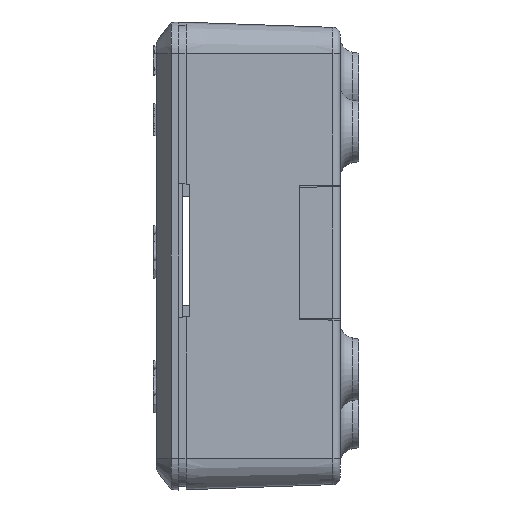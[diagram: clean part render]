
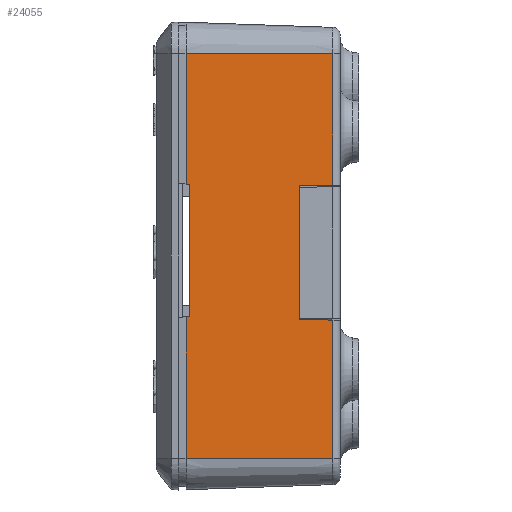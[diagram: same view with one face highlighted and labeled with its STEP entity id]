
A CAD part, left-side view. The second image highlights one B-rep face of the part: STEP entity #24055.
In plain terms, the highlighted planar face has unit normal (-0.999, -0.035, 0).
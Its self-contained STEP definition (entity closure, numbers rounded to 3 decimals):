
#236 = ORIENTED_EDGE ( 'PI314', *, *, #5801, .T. ) ;
#664 = EDGE_CURVE ( 'PI314', #14801, #6097, #19391, .T. ) ;
#811 = CARTESIAN_POINT ( 'PI314',  ( -47.192, 1., -9.3 ) ) ;
#823 = DIRECTION ( 'PI314',  ( 0.035, -0.999, 0. ) ) ;
#1284 = CARTESIAN_POINT ( 'PI314',  ( -47.725, 16.25, 26.5 ) ) ;
#1428 = CARTESIAN_POINT ( 'PI314',  ( -47.725, 16.25, -8.948 ) ) ;
#1599 = VERTEX_POINT ( 'PI314', #40087 ) ;
#1869 = EDGE_CURVE ( 'PI314', #28708, #16772, #37966, .T. ) ;
#2370 = DIRECTION ( 'PI314',  ( -0.035, 0.998, -0.052 ) ) ;
#2638 = EDGE_CURVE ( 'PI314', #17319, #4928, #10108, .T. ) ;
#3401 = EDGE_LOOP ( 'PI314', ( #39739, #33666, #236, #25919, #33052, #14108, #24398, #8395, #15453, #34259, #30277, #16479 ) ) ;
#3767 = LINE ( 'PI314', #28551, #22710 ) ;
#4606 = DIRECTION ( 'PI314',  ( -0.035, 0.999, 0.017 ) ) ;
#4617 = CARTESIAN_POINT ( 'PI314',  ( -47., -4.5, 26.5 ) ) ;
#4776 = DIRECTION ( 'PI314',  ( -0.035, 0.999, 0. ) ) ;
#4843 = VECTOR ( 'PI314', #40384, 1000. ) ;
#4928 = VERTEX_POINT ( 'PI314', #1284 ) ;
#4931 = CARTESIAN_POINT ( 'PI314',  ( -47.034, -3.535, -9.379 ) ) ;
#5128 = EDGE_CURVE ( 'PI314', #14801, #14961, #26571, .T. ) ;
#5518 = EDGE_CURVE ( 'PI314', #39306, #10687, #7079, .T. ) ;
#5801 = EDGE_CURVE ( 'PI314', #10687, #42244, #40994, .T. ) ;
#5831 = LINE ( 'PI314', #16416, #31958 ) ;
#6097 = VERTEX_POINT ( 'PI314', #1428 ) ;
#7079 = LINE ( 'PI314', #18953, #4843 ) ;
#7278 = DIRECTION ( 'PI314',  ( 0., 0., -1. ) ) ;
#7343 = CARTESIAN_POINT ( 'PI314',  ( -47.034, -3.535, -31.5 ) ) ;
#7974 = CARTESIAN_POINT ( 'PI314',  ( -46.928, -6.555, 7.752 ) ) ;
#8395 = ORIENTED_EDGE ( 'PI314', *, *, #18068, .T. ) ;
#9935 = VECTOR ( 'PI314', #2370, 1000. ) ;
#10108 = LINE ( 'PI314', #33067, #38460 ) ;
#10687 = VERTEX_POINT ( 'PI314', #45604 ) ;
#11422 = CARTESIAN_POINT ( 'PI314',  ( -47., -4.5, -31.5 ) ) ;
#13777 = CARTESIAN_POINT ( 'PI314',  ( -47.034, -3.535, -31.5 ) ) ;
#14108 = ORIENTED_EDGE ( 'PI314', *, *, #1869, .T. ) ;
#14801 = VERTEX_POINT ( 'PI314', #29636 ) ;
#14961 = VERTEX_POINT ( 'PI314', #41320 ) ;
#15453 = ORIENTED_EDGE ( 'PI314', *, *, #2638, .F. ) ;
#15955 = LINE ( 'PI314', #7343, #17060 ) ;
#16416 = CARTESIAN_POINT ( 'PI314',  ( -47.725, 16.25, -31.5 ) ) ;
#16479 = ORIENTED_EDGE ( 'PI314', *, *, #664, .T. ) ;
#16749 = DIRECTION ( 'PI314',  ( 0.035, -0.999, 0.017 ) ) ;
#16772 = VERTEX_POINT ( 'PI314', #31332 ) ;
#17060 = VECTOR ( 'PI314', #25354, 1000. ) ;
#17319 = VERTEX_POINT ( 'PI314', #42649 ) ;
#17353 = DIRECTION ( 'PI314',  ( 0., 0., 1. ) ) ;
#18068 = EDGE_CURVE ( 'PI314', #1599, #4928, #21938, .T. ) ;
#18554 = AXIS2_PLACEMENT_3D ( 'PI314', #11422, #22152, #823 ) ;
#18582 = PLANE ( 'PI314',  #18554 ) ;
#18953 = CARTESIAN_POINT ( 'PI314',  ( -47., -4.5, -28. ) ) ;
#19275 = LINE ( 'PI314', #36464, #37063 ) ;
#19391 = LINE ( 'PI314', #41415, #9935 ) ;
#21938 = LINE ( 'PI314', #4617, #39734 ) ;
#22054 = VECTOR ( 'PI314', #17353, 1000. ) ;
#22152 = DIRECTION ( 'PI314',  ( -0.999, -0.035, 0. ) ) ;
#22503 = DIRECTION ( 'PI314',  ( 0., 0., 1. ) ) ;
#22710 = VECTOR ( 'PI314', #7278, 1000. ) ;
#24055 = ADVANCED_FACE ( 'PI314', ( #32649 ), #18582, .T. ) ;
#24398 = ORIENTED_EDGE ( 'PI314', *, *, #24494, .T. ) ;
#24494 = EDGE_CURVE ( 'PI314', #16772, #1599, #15955, .T. ) ;
#25354 = DIRECTION ( 'PI314',  ( 0., 0., 1. ) ) ;
#25449 = VECTOR ( 'PI314', #45028, 1000. ) ;
#25687 = DIRECTION ( 'PI314',  ( 0.035, -0.998, -0.052 ) ) ;
#25919 = ORIENTED_EDGE ( 'PI314', *, *, #36836, .T. ) ;
#26571 = LINE ( 'PI314', #34243, #25449 ) ;
#28551 = CARTESIAN_POINT ( 'PI314',  ( -47.192, 1., -31.5 ) ) ;
#28708 = VERTEX_POINT ( 'PI314', #32338 ) ;
#29636 = CARTESIAN_POINT ( 'PI314',  ( -47.707, 15.75, -8.921 ) ) ;
#30277 = ORIENTED_EDGE ( 'PI314', *, *, #5128, .F. ) ;
#30960 = EDGE_CURVE ( 'PI314', #39306, #6097, #5831, .T. ) ;
#31332 = CARTESIAN_POINT ( 'PI314',  ( -47.034, -3.535, 8.779 ) ) ;
#31958 = VECTOR ( 'PI314', #41301, 1000. ) ;
#32338 = CARTESIAN_POINT ( 'PI314',  ( -47.192, 1., 8.7 ) ) ;
#32649 = FACE_OUTER_BOUND ( 'PI314', #3401, .T. ) ;
#33052 = ORIENTED_EDGE ( 'PI314', *, *, #35886, .F. ) ;
#33067 = CARTESIAN_POINT ( 'PI314',  ( -47.725, 16.25, -31.5 ) ) ;
#33476 = EDGE_CURVE ( 'PI314', #17319, #14961, #38487, .T. ) ;
#33666 = ORIENTED_EDGE ( 'PI314', *, *, #5518, .T. ) ;
#34243 = CARTESIAN_POINT ( 'PI314',  ( -47.707, 15.75, -31.5 ) ) ;
#34259 = ORIENTED_EDGE ( 'PI314', *, *, #33476, .T. ) ;
#34466 = CARTESIAN_POINT ( 'PI314',  ( -47.025, -3.798, 8.784 ) ) ;
#35886 = EDGE_CURVE ( 'PI314', #28708, #44365, #3767, .T. ) ;
#36464 = CARTESIAN_POINT ( 'PI314',  ( -46.987, -4.885, -9.403 ) ) ;
#36836 = EDGE_CURVE ( 'PI314', #42244, #44365, #19275, .T. ) ;
#37063 = VECTOR ( 'PI314', #4606, 1000. ) ;
#37966 = LINE ( 'PI314', #34466, #39089 ) ;
#38460 = VECTOR ( 'PI314', #22503, 1000. ) ;
#38487 = LINE ( 'PI314', #7974, #40734 ) ;
#38563 = CARTESIAN_POINT ( 'PI314',  ( -47.725, 16.25, -28. ) ) ;
#39089 = VECTOR ( 'PI314', #16749, 1000. ) ;
#39306 = VERTEX_POINT ( 'PI314', #38563 ) ;
#39734 = VECTOR ( 'PI314', #4776, 1000. ) ;
#39739 = ORIENTED_EDGE ( 'PI314', *, *, #30960, .F. ) ;
#40087 = CARTESIAN_POINT ( 'PI314',  ( -47.034, -3.535, 26.5 ) ) ;
#40384 = DIRECTION ( 'PI314',  ( 0.035, -0.999, 0. ) ) ;
#40734 = VECTOR ( 'PI314', #25687, 1000. ) ;
#40994 = LINE ( 'PI314', #13777, #22054 ) ;
#41301 = DIRECTION ( 'PI314',  ( 0., 0., 1. ) ) ;
#41320 = CARTESIAN_POINT ( 'PI314',  ( -47.707, 15.75, 8.921 ) ) ;
#41415 = CARTESIAN_POINT ( 'PI314',  ( -47.043, -3.266, -7.925 ) ) ;
#42244 = VERTEX_POINT ( 'PI314', #4931 ) ;
#42649 = CARTESIAN_POINT ( 'PI314',  ( -47.725, 16.25, 8.948 ) ) ;
#44365 = VERTEX_POINT ( 'PI314', #811 ) ;
#45028 = DIRECTION ( 'PI314',  ( 0., 0., 1. ) ) ;
#45604 = CARTESIAN_POINT ( 'PI314',  ( -47.034, -3.535, -28. ) ) ;
